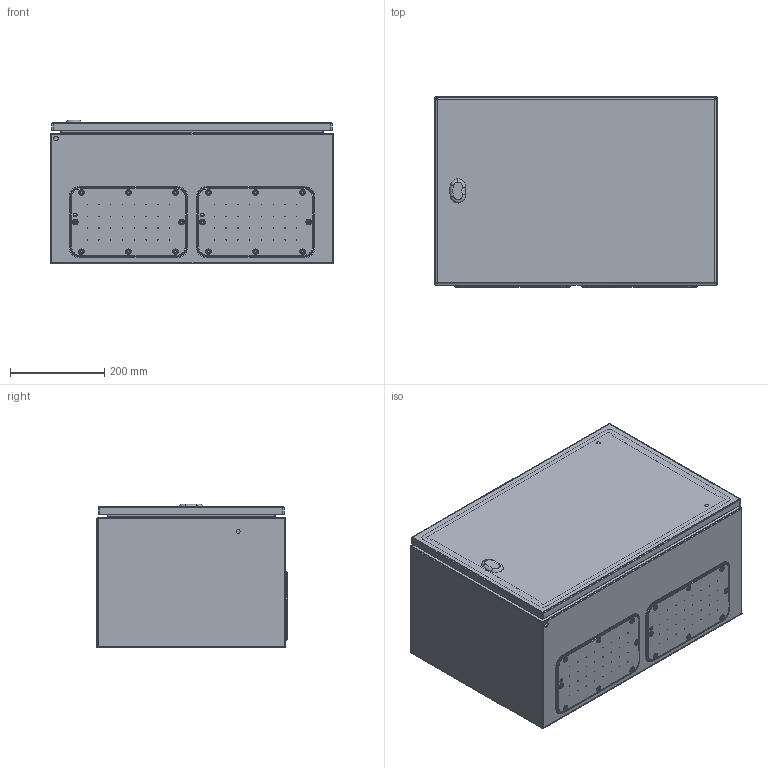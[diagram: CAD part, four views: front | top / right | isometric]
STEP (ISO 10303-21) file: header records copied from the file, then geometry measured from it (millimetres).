
FILE_DESCRIPTION (( 'STEP AP203' ), '1' );
FILE_NAME ('0600x0400x0300 dx.step', '2021-09-07T06:41:24', ( '' ), ( '' ), 'SwSTEP 2.0', 'SolidWorks 2021', '' );
FILE_SCHEMA (( 'CONFIG_CONTROL_DESIGN' ));
Length unit declared in the file: millimetre
Products named in the file (7): AR_ECOR_flangia IC_03; AR_ECOR_porta_singola_0600x0400; AR_ECOR_Piastra_14; AR_ECOR_montaggio_porta_singola_0600x0400; AR_ECOR_involucro_0600x0400x0300; AR_ECOR_chiusura_std_STD; 0600x0400x0300 dx
Assembly tree (7 placements, depth 3):
  0600x0400x0300 dx
    AR_ECOR_involucro_0600x0400x0300
    AR_ECOR_montaggio_porta_singola_0600x0400
      AR_ECOR_porta_singola_0600x0400
      AR_ECOR_chiusura_std_STD
    AR_ECOR_flangia IC_03  x2
    AR_ECOR_Piastra_14
Bounding box: 600 x 404 x 305 mm (x, y, z)
Volume: 2263633.5 mm3; surface area: 2763267.3 mm2
Topology: 6 solids, 6 shells, 951 faces, 2318 edges, 1456 vertices
Faces by surface type: cylinder 437, plane 265, cone 108, torus 73, bspline 52, sphere 16
Entity records: 22215 total; most frequent: CARTESIAN_POINT 4649, DIRECTION 3739, ORIENTED_EDGE 3356, EDGE_CURVE 1678, AXIS2_PLACEMENT_3D 1489, VERTEX_POINT 1064, EDGE_LOOP 892, CIRCLE 821
